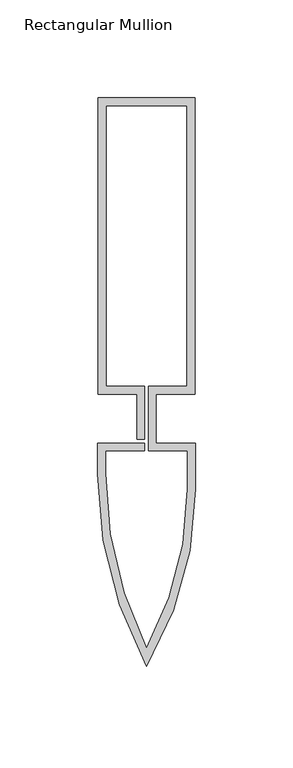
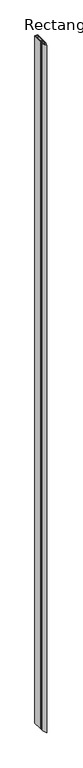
"""IFC4 building model written with IfcOpenShell, lengths in millimetres: member geometry, Rectangular Mullion : Reynaers_CW-50_Mullion-Transom_Horizontal_151.4mm_Facecap-05."""

from ifc_helpers import new_model, si_unit, point, frame, frame_2d, origin, place, context, project, spatial, polyline, circle_curve, trimmed, segment, composite_curve, outline, extrude, source, transform, mapped, element, save


def rectangular_mullion_c18a7aea(model_context):
    return source(origin(), model_context, "Body", "SweptSolid", [
        extrude(outline(composite_curve([segment(polyline([(-24.8004059, 163.9), (24.8004059, 163.9), (24.8004059, 12.5), (4.9004059, 12.5), (4.9004059, -12.5), (24.994845, -12.5), (24.994845, -36.0195976)]), True, "CONTINUOUS"), segment(trimmed(circle_curve(frame_2d((-151.2704106, -36.0195976)), 176.2652556), [point((24.994845, -36.0195976))], [point((0.0, -126.5))], False, "CARTESIAN"), True, "CONTINUOUS"), segment(trimmed(circle_curve(frame_2d((181.1469577, -28.111878)), 206.1418028), [point((0.0, -126.5))], [point((-24.994845, -28.111878))], False, "CARTESIAN"), True, "CONTINUOUS"), segment(polyline([(-24.994845, -28.111878), (-24.994845, -12.5), (-1.0995941, -12.5), (-1.0995941, -16.5), (-20.994845, -16.5), (-20.994845, -28.2355063)]), True, "CONTINUOUS"), segment(trimmed(circle_curve(frame_2d((179.2670132, -28.2355063)), 200.2618582), [point((-20.994845, -28.2355063))], [point((0.0, -117.5))], True, "CARTESIAN"), True, "CONTINUOUS"), segment(trimmed(circle_curve(frame_2d((-147.4777527, -36.0547506)), 168.4725977), [point((0.0, -117.5))], [point((20.994845, -36.0547506))], True, "CARTESIAN"), True, "CONTINUOUS"), segment(polyline([(20.994845, -36.0547506), (20.994845, -16.5), (0.9004059, -16.5), (0.9004059, 16.5), (20.8004059, 16.5), (20.8004059, 159.9), (-20.8004059, 159.9), (-20.8004059, 16.5), (-0.9004059, 16.5), (-0.9004059, -10.5), (-4.9004059, -10.5), (-4.9004059, 12.5), (-24.8004059, 12.5), (-24.8004059, 163.9)]), True, "CONTINUOUS")], self_intersect=False)), frame((0.0, 0.0, -12000.0), z_axis=(0.0, 0.0, 1.0), x_axis=(1.0, 0.0, 0.0)), (0.0, 0.0, 1.0), 12000.0),
    ])


if __name__ == "__main__":
    model = new_model("IFC4")
    model_context = context("Model", 3, world=origin())
    ifc_project = project(units=[si_unit("LENGTHUNIT", "METRE", prefix="MILLI")], contexts=[model_context])
    site = spatial("IfcSite", under=ifc_project)
    building = spatial("IfcBuilding", under=site)
    placement = place(None, origin())
    rectangular_mullion_shape = rectangular_mullion_c18a7aea(model_context)
    element("IfcMember", 1, ObjectType="Rectangular Mullion : Reynaers_CW-50_Mullion-Transom_Horizontal_151.4mm_Facecap-05", at=placement, inside=building, context=model_context, shape_type="MappedRepresentation", body=[
        mapped(rectangular_mullion_shape, transform((0.0, 0.0, 0.0), x_axis=(1.0, 0.0, 0.0), y_axis=(0.0, 1.0, 0.0), z_axis=(0.0, 0.0, 1.0))),
    ])
    save(model, "model.ifc")
